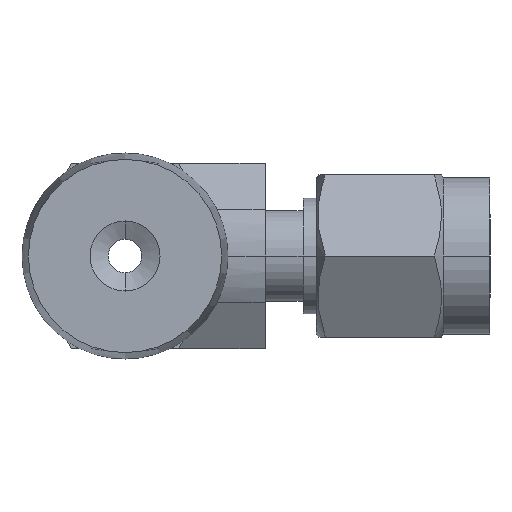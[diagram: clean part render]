
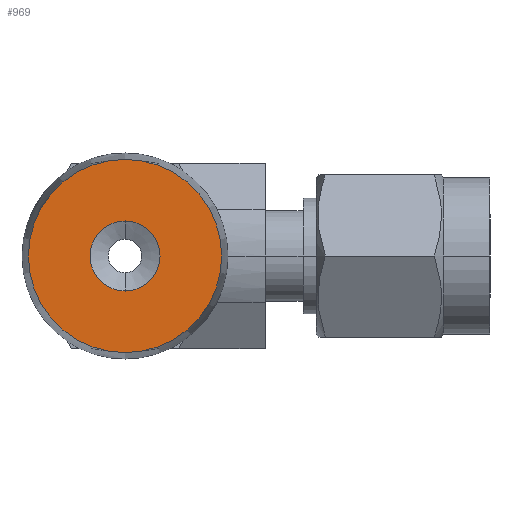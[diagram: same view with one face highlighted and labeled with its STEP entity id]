
A CAD part, left-side view. The second image highlights one B-rep face of the part: STEP entity #969.
In plain terms, the highlighted planar face has unit normal (-1, 0, 0).
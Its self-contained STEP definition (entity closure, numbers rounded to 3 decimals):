
#133 = VERTEX_POINT ( 'NONE', #1383 ) ;
#135 = EDGE_CURVE ( 'NONE', #133, #136, #1364, .T. ) ;
#136 = VERTEX_POINT ( 'NONE', #1359 ) ;
#263 = EDGE_CURVE ( 'NONE', #264, #265, #1625, .T. ) ;
#264 = VERTEX_POINT ( 'NONE', #1620 ) ;
#265 = VERTEX_POINT ( 'NONE', #1619 ) ;
#507 = ORIENTED_EDGE ( 'NONE', *, *, #263, .T. ) ;
#576 = ORIENTED_EDGE ( 'NONE', *, *, #577, .F. ) ;
#577 = EDGE_CURVE ( 'NONE', #136, #133, #2099, .T. ) ;
#790 = EDGE_CURVE ( 'NONE', #265, #264, #2189, .T. ) ;
#965 = ORIENTED_EDGE ( 'NONE', *, *, #135, .F. ) ;
#966 = EDGE_LOOP ( 'NONE', ( #967, #507 ) ) ;
#967 = ORIENTED_EDGE ( 'NONE', *, *, #790, .T. ) ;
#969 = ADVANCED_FACE ( 'NONE', ( #2482, #2481 ), #2480, .T. ) ;
#983 = EDGE_LOOP ( 'NONE', ( #576, #965 ) ) ;
#1359 = CARTESIAN_POINT ( 'NONE',  ( -24., 0., 2.4 ) ) ;
#1360 = DIRECTION ( 'NONE',  ( 0., 0., 1. ) ) ;
#1361 = DIRECTION ( 'NONE',  ( -1., 0., 0. ) ) ;
#1362 = CARTESIAN_POINT ( 'NONE',  ( -24., 0., 0. ) ) ;
#1363 = AXIS2_PLACEMENT_3D ( 'NONE', #1362, #1361, #1360 ) ;
#1364 = CIRCLE ( 'NONE', #1363, 2.4 ) ;
#1383 = CARTESIAN_POINT ( 'NONE',  ( -24., 0., -2.4 ) ) ;
#1619 = CARTESIAN_POINT ( 'NONE',  ( -24., 0., 6.618 ) ) ;
#1620 = CARTESIAN_POINT ( 'NONE',  ( -24., 0., -6.618 ) ) ;
#1621 = DIRECTION ( 'NONE',  ( 0., 0., 1. ) ) ;
#1622 = DIRECTION ( 'NONE',  ( -1., 0., 0. ) ) ;
#1623 = CARTESIAN_POINT ( 'NONE',  ( -24., 0., 0. ) ) ;
#1624 = AXIS2_PLACEMENT_3D ( 'NONE', #1623, #1622, #1621 ) ;
#1625 = CIRCLE ( 'NONE', #1624, 6.618 ) ;
#2092 = DIRECTION ( 'NONE',  ( 0., 0., 1. ) ) ;
#2093 = DIRECTION ( 'NONE',  ( -1., 0., 0. ) ) ;
#2094 = CARTESIAN_POINT ( 'NONE',  ( -24., 0., 0. ) ) ;
#2095 = AXIS2_PLACEMENT_3D ( 'NONE', #2094, #2093, #2092 ) ;
#2099 = CIRCLE ( 'NONE', #2095, 2.4 ) ;
#2185 = DIRECTION ( 'NONE',  ( 0., 0., 1. ) ) ;
#2186 = DIRECTION ( 'NONE',  ( -1., 0., 0. ) ) ;
#2187 = CARTESIAN_POINT ( 'NONE',  ( -24., 0., 0. ) ) ;
#2188 = AXIS2_PLACEMENT_3D ( 'NONE', #2187, #2186, #2185 ) ;
#2189 = CIRCLE ( 'NONE', #2188, 6.618 ) ;
#2475 = DIRECTION ( 'NONE',  ( 0., 0., 1. ) ) ;
#2476 = DIRECTION ( 'NONE',  ( -1., 0., 0. ) ) ;
#2477 = AXIS2_PLACEMENT_3D ( 'NONE', #2479, #2476, #2475 ) ;
#2479 = CARTESIAN_POINT ( 'NONE',  ( -24., 0., 0. ) ) ;
#2480 = PLANE ( 'NONE',  #2477 ) ;
#2481 = FACE_OUTER_BOUND ( 'NONE', #966, .T. ) ;
#2482 = FACE_BOUND ( 'NONE', #983, .T. ) ;
